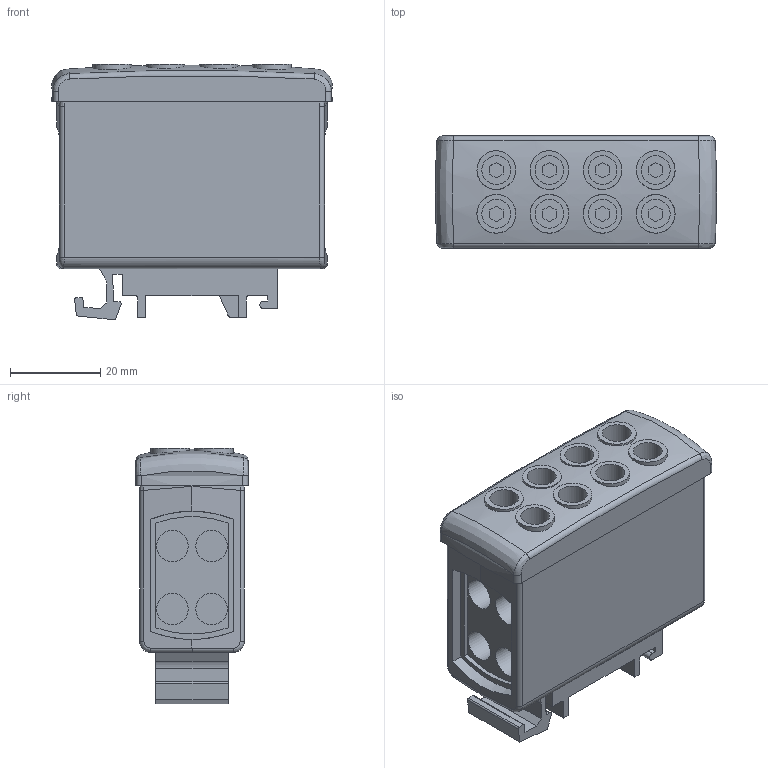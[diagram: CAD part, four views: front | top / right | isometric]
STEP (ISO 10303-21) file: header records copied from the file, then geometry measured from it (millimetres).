
FILE_DESCRIPTION(/* description */ ('Unknown'),/* implementation_level */ '2;1');
FILE_NAME(/* name */ 'utb 4x16',/* time_stamp */ '2021-04-01T13:17:10+02:00',/* author */ ('Unknown'),/* organization */ ('Unknown'),/* preprocessor_version */ 'ST-DEVELOPER v16.7',/* originating_system */ 'Solid Edge',/* authorisation */ 'Unknown');
FILE_SCHEMA (('AUTOMOTIVE_DESIGN {1 0 10303 214 3 1 1}'));
Length unit declared in the file: millimetre
Products named in the file (1): utb 4x16
Bounding box: 62.43 x 24.9 x 56.78 mm (x, y, z)
Volume: 57840.7 mm3; surface area: 15992.2 mm2
Topology: 1 solids, 1 shells, 216 faces, 522 edges, 344 vertices
Faces by surface type: plane 134, cylinder 61, bspline 18, torus 3
Full cylindrical faces by diameter (mm): 6.4 x8, 7 x8, 8.6 x8
Entity records: 6368 total; most frequent: CARTESIAN_POINT 1481, ORIENTED_EDGE 972, DIRECTION 968, EDGE_CURVE 486, VERTEX_POINT 332, AXIS2_PLACEMENT_3D 325, LINE 318, VECTOR 318
